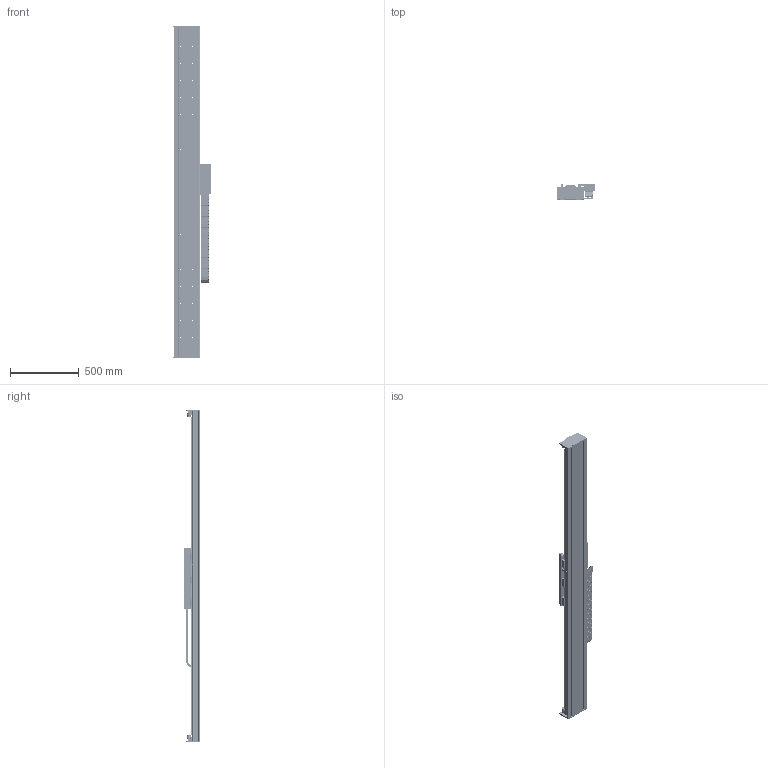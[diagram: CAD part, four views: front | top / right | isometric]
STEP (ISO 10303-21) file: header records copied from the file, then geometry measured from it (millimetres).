
FILE_DESCRIPTION (( 'STEP AP203' ), '1' );
FILE_NAME ('STF50380N-xC1B-Axx.STEP', '2007-10-29T15:10:50', ( 'Yaskawa' ), ( 'Yaskawa' ), 'SwSTEP 2.0', 'SolidWorks 2007', '' );
FILE_SCHEMA (( 'CONFIG_CONTROL_DESIGN' ));
Products named in the file (60): STF50 Large End Stop; SGLFW-50A380AP; STF50-001B F50-380 Carriage; SSR20W Block; STF50-005-R2 Cable Router; STCM-R1; STF50-006 Endplate; STCM-006-R1 Upper E-chain Bracket; Serial Converter; STCM-007 Lower E-Chain Bracket; STF50200O; 07.50.038.0_22; 07.50.038.0_23; 07.50.038.0_34; 07.50.038.0_33; 07.50.038.0_40; 07.50.038.0_39; 07.50.038.0_41; 07.50.038.0_46; 07.50.038.0_47; STF50380N-xC1B-Axx; STF50200 Base_STF50BM-014; SGLFM-50405AC; SGLFM-50945AC; STF50-007 End Stop; Large Bumper; SSR20 Rail 820_2320; STF50-380 Complete Carriage; STF50-003 Renishaw Encoder Bracket; RGH22B; STF50-004 Flag; STF50-0028-R1 F50-380 Carriage Horn; STCM-001-R2 Cable Bracket; STCM-002-R2 Cable Assembly Front; STCM-003 Cable Assembly Bottom; STCM-004 Cable Assembly Side; STCM-005-R1 Cable Assembly Cover; B18.3.1M - 5 x 0.8 x 12 Hex SHCS -- 12NHX_B18.3.1M - 5 x 0.8 x 12 Hex SHCS -- 12NHX; B18.3.1M - 6 x 1.0 x 25 Hex SHCS -- 25NHX_B18.3.1M - 6 x 1.0 x 25 Hex SHCS -- 25NHX; B18.3.4M - 3 x 0.5 x 12 SBHCS --N_B18.3.4M - 3 x 0.5 x 12 SBHCS --N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
Assembly tree (160 placements, depth 4):
  STF50380N-xC1B-Axx
    STF50 Large End Stop  x4
      Large Bumper
      STF50-007 End Stop
    STF50-006 Endplate  x2
    STF50-380 Complete Carriage
      SGLFW-50A380AP
      B18.3.1M - 5 x 0.8 x 12 Hex SHCS -- 12NHX_B18.3.1M - 5 x 0.8 x 12 Hex SHCS -- 12NHX  x34
      B18.3.1M - 6 x 1.0 x 25 Hex SHCS -- 25NHX_B18.3.1M - 6 x 1.0 x 25 Hex SHCS -- 25NHX  x10
      SSR20W Block  x6
      STF50-0028-R1 F50-380 Carriage Horn  x2
      STCM-R1
        Serial Converter
        STCM-004 Cable Assembly Side
        STCM-003 Cable Assembly Bottom
        STCM-002-R2 Cable Assembly Front
        STCM-001-R2 Cable Bracket
        STCM-006-R1 Upper E-chain Bracket
        STCM-005-R1 Cable Assembly Cover
      B18.3.4M - 3 x 0.5 x 12 SBHCS --N_B18.3.4M - 3 x 0.5 x 12 SBHCS --N  x3
      STF50-001B F50-380 Carriage
      STF50-004 Flag
      B18.3.5M - 3 x 0.5 x 12 Socket FCHS  -- 12N_B18.3.5M - 3 x 0.5 x 12 Socket FCHS  -- 12N  x6
      STF50-003 Renishaw Encoder Bracket
      RGH22B
      STF50-005-R2 Cable Router
    STF50200O
      07.50.038.0_22
      07.50.038.0_37
      07.50.038.0_32  x22
      07.50.038.0_31  x20
      07.50.038.0_43
      07.50.038.0_21
      07.50.038.0_45
      07.50.038.0_39
      07.50.038.0_34
      07.50.038.0_23
      07.50.038.0_29
      07.50.038.0_41
      07.50.038.0_24
      07.50.038.0_47
      07.50.038.0_40
      07.50.038.0_38
      07.50.038.0_44
      07.50.038.0_25
      07.50.038.0_35
      07.50.038.0_42
      07.50.038.0_20
      07.50.038.0_28
      07.50.038.0_30
      07.50.038.0_33
      07.50.038.0_26
      07.50.038.0_36
      07.50.038.0_46
      07.50.038.0_27
    SSR20 Rail 820_2320  x2
    SGLFM-50945AC  x2
    STCM-007 Lower E-Chain Bracket
    STF50200 Base_STF50BM-014
    SGLFM-50405AC
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Bounding box: 269.74 x 115.5 x 2419.05 mm (x, y, z)
Volume: 18385209.7 mm3; surface area: 3952961.6 mm2
Topology: 225 solids, 225 shells, 10015 faces, 25755 edges, 16281 vertices
Faces by surface type: plane 5164, cylinder 3807, cone 920, torus 110, bspline 8, sphere 6
Entity records: 159982 total; most frequent: DIRECTION 27094, CARTESIAN_POINT 26394, ORIENTED_EDGE 24768, EDGE_CURVE 12384, AXIS2_PLACEMENT_3D 9698, VERTEX_POINT 8096, VECTOR 7698, LINE 7698
